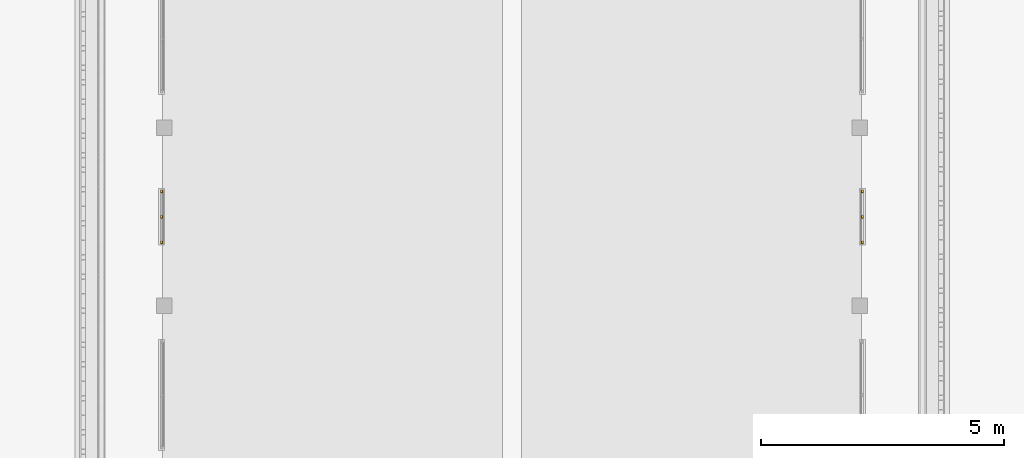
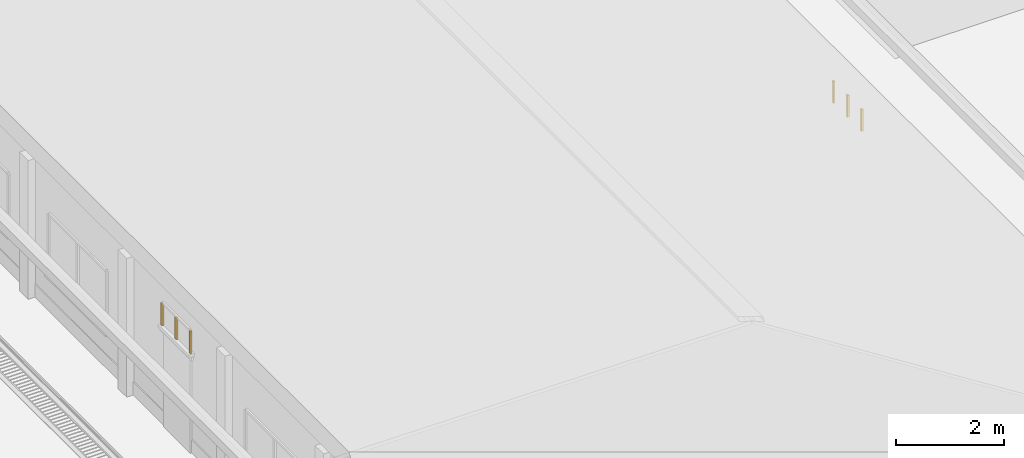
# One storey, part 78 of 166: 6 windows.
"""IFC2X3 building model written with IfcOpenShell, lengths in metres."""

from ifc_helpers import new_model, si_unit, origin, origin_with_axes, place, context, subcontext, project, spatial, faceted_brep, element, save


model = new_model("IFC2X3")

# Units and contexts
model_context = context("Model", 3, precision=1e-05, world=origin_with_axes())
body_context = subcontext(model_context, "Body", "Model", "MODEL_VIEW")
ifc_project = project(units=[si_unit("LENGTHUNIT", "METRE"), si_unit("AREAUNIT", "SQUARE_METRE"), si_unit("VOLUMEUNIT", "CUBIC_METRE"), si_unit("PLANEANGLEUNIT", "RADIAN")], contexts=[model_context])

# Site, building, storey
site_placement = place(None, origin_with_axes())
site = spatial("IfcSite", under=ifc_project, at=site_placement, Name="Predio Los Mangos - Morales, San Martín", CompositionType="ELEMENT")
building_placement = place(site_placement, origin())
building = spatial("IfcBuilding", under=site, at=building_placement, Name="Hogar de Refugio Temporal", CompositionType="ELEMENT")
storey_placement = place(building_placement, origin())
storey = spatial("IfcBuildingStorey", under=building, at=storey_placement, Name="NIVEL 1 (NPT +0.00)", CompositionType="ELEMENT", Elevation=0.0)

# Windows
window_1_placement = place(storey_placement, origin())
element("IfcWindow", 1, at=window_1_placement, inside=storey, Name="E-05_vt4_m", ObjectType="Ventana", context=body_context, shape_type="Brep", body=[
    faceted_brep([(45.22, 73.8313, 2.45), (45.22, 73.8812, 2.45), (45.26, 73.8812, 2.45), (45.26, 73.8313, 2.45), (45.22, 73.8313, 2.95), (45.26, 73.8313, 2.95), (45.26, 73.8812, 2.95), (45.22, 73.8812, 2.95)], [[[0, 1, 2, 3]], [[4, 5, 6, 7]], [[0, 3, 5, 4]], [[3, 2, 6, 5]], [[2, 1, 7, 6]], [[1, 0, 4, 7]]]),
])
window_2_placement = place(storey_placement, origin())
element("IfcWindow", 2, at=window_2_placement, inside=storey, Name="E-05_vt4_m", ObjectType="Ventana", context=body_context, shape_type="Brep", body=[
    faceted_brep([(45.22, 74.8812, 2.45), (45.22, 74.9313, 2.45), (45.26, 74.9313, 2.45), (45.26, 74.8812, 2.45), (45.22, 74.8812, 2.95), (45.26, 74.8812, 2.95), (45.26, 74.9313, 2.95), (45.22, 74.9313, 2.95)], [[[0, 1, 2, 3]], [[4, 5, 6, 7]], [[0, 3, 5, 4]], [[3, 2, 6, 5]], [[2, 1, 7, 6]], [[1, 0, 4, 7]]]),
])
window_3_placement = place(storey_placement, origin())
element("IfcWindow", 3, at=window_3_placement, inside=storey, Name="E-05_vt4_m", ObjectType="Ventana", context=body_context, shape_type="Brep", body=[
    faceted_brep([(45.22, 74.3562, 2.45), (45.22, 74.4062, 2.45), (45.26, 74.4062, 2.45), (45.26, 74.3562, 2.45), (45.22, 74.3562, 2.95), (45.26, 74.3562, 2.95), (45.26, 74.4062, 2.95), (45.22, 74.4062, 2.95)], [[[0, 1, 2, 3]], [[4, 5, 6, 7]], [[0, 3, 5, 4]], [[3, 2, 6, 5]], [[2, 1, 7, 6]], [[1, 0, 4, 7]]]),
])
window_4_placement = place(storey_placement, origin())
element("IfcWindow", 4, at=window_4_placement, inside=storey, Name="E-05_vt4_m", ObjectType="Ventana", context=body_context, shape_type="Brep", body=[
    faceted_brep([(59.64, 73.8313, 2.45), (59.64, 73.8812, 2.45), (59.68, 73.8812, 2.45), (59.68, 73.8313, 2.45), (59.64, 73.8313, 2.95), (59.68, 73.8313, 2.95), (59.68, 73.8812, 2.95), (59.64, 73.8812, 2.95)], [[[0, 1, 2, 3]], [[4, 5, 6, 7]], [[0, 3, 5, 4]], [[3, 2, 6, 5]], [[2, 1, 7, 6]], [[1, 0, 4, 7]]]),
])
window_5_placement = place(storey_placement, origin())
element("IfcWindow", 5, at=window_5_placement, inside=storey, Name="E-05_vt4_m", ObjectType="Ventana", context=body_context, shape_type="Brep", body=[
    faceted_brep([(59.64, 74.8812, 2.45), (59.64, 74.9313, 2.45), (59.68, 74.9313, 2.45), (59.68, 74.8812, 2.45), (59.64, 74.8812, 2.95), (59.68, 74.8812, 2.95), (59.68, 74.9313, 2.95), (59.64, 74.9313, 2.95)], [[[0, 1, 2, 3]], [[4, 5, 6, 7]], [[0, 3, 5, 4]], [[3, 2, 6, 5]], [[2, 1, 7, 6]], [[1, 0, 4, 7]]]),
])
window_6_placement = place(storey_placement, origin())
element("IfcWindow", 6, at=window_6_placement, inside=storey, Name="E-05_vt4_m", ObjectType="Ventana", context=body_context, shape_type="Brep", body=[
    faceted_brep([(59.64, 74.3562, 2.45), (59.64, 74.4062, 2.45), (59.68, 74.4062, 2.45), (59.68, 74.3562, 2.45), (59.64, 74.3562, 2.95), (59.68, 74.3562, 2.95), (59.68, 74.4062, 2.95), (59.64, 74.4062, 2.95)], [[[0, 1, 2, 3]], [[4, 5, 6, 7]], [[0, 3, 5, 4]], [[3, 2, 6, 5]], [[2, 1, 7, 6]], [[1, 0, 4, 7]]]),
])

save(model, "model.ifc")
